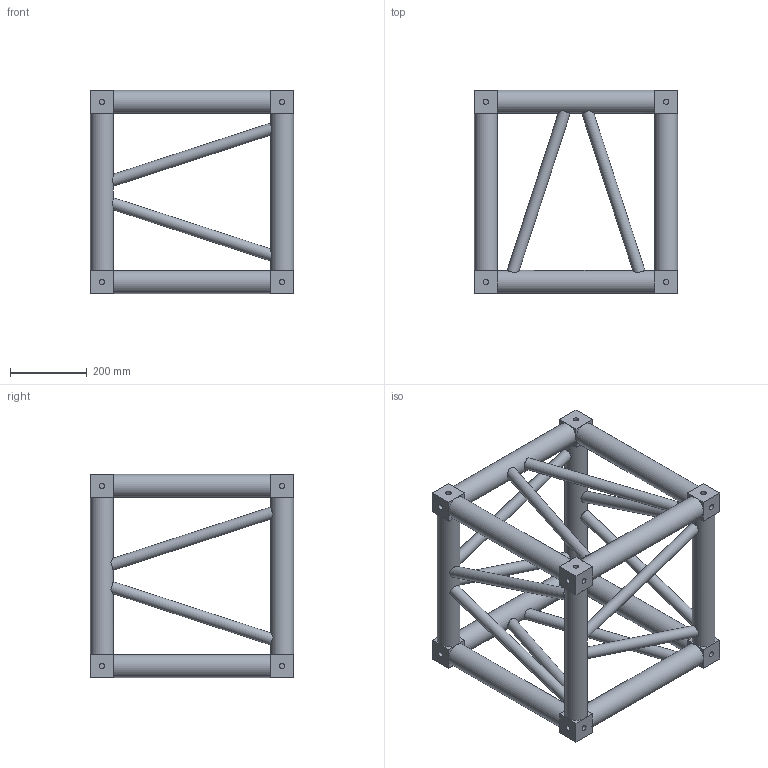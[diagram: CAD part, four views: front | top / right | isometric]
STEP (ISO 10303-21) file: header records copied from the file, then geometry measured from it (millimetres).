
FILE_DESCRIPTION(/* description */ (''),/* implementation_level */ '2;1');
FILE_NAME(/* name */ 'M:\Symbolen_NIEUW\STP\Boxcorner\111130032.stp',/* time_stamp */ '2015-05-19T13:38:48+02:00',/* author */ ('Stephan'),/* organization */ (''),/* preprocessor_version */ 'ST-DEVELOPER v15.6',/* originating_system */ 'Autodesk Inventor 2015',/* authorisation */ '');
FILE_SCHEMA (('AUTOMOTIVE_DESIGN { 1 0 10303 214 3 1 1 }'));
Length unit declared in the file: millimetre
Products named in the file (1): 160024217
Bounding box: 530 x 530 x 530 mm (x, y, z)
Volume: 19131320.9 mm3; surface area: 1560225.5 mm2
Topology: 1 solids, 1 shells, 240 faces, 610 edges, 352 vertices
Faces by surface type: plane 168, cylinder 72
Full cylindrical faces by diameter (mm): 13.835 x48, 30 x12, 60 x12
Entity records: 7615 total; most frequent: CARTESIAN_POINT 1945, DIRECTION 1226, ORIENTED_EDGE 960, AXIS2_PLACEMENT_3D 529, EDGE_CURVE 480, EDGE_LOOP 360, VERTEX_POINT 296, STYLED_ITEM 241
